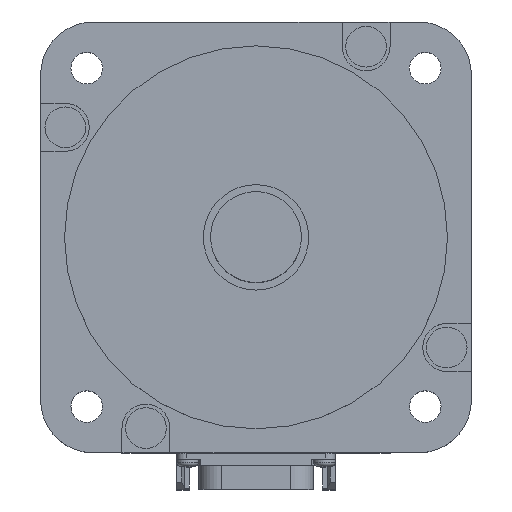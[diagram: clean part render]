
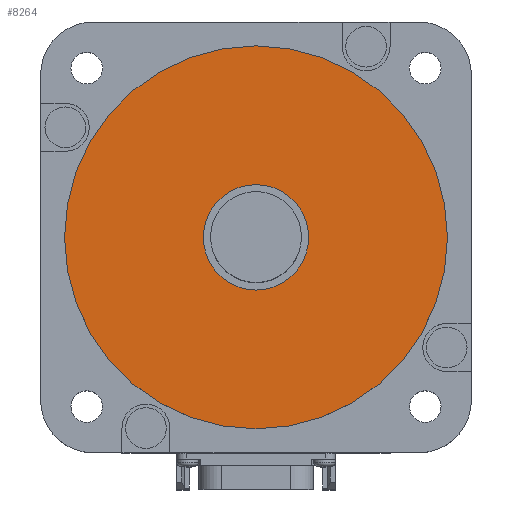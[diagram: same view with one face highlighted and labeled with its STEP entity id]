
A CAD part, top view. The second image highlights one B-rep face of the part: STEP entity #8264.
In plain terms, the highlighted planar face has unit normal (0, 0, 1).
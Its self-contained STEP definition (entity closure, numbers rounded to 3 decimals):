
#1821=CARTESIAN_POINT('',(0.,0.,3.));
#1822=DIRECTION('',(0.,0.,-1.));
#1823=DIRECTION('',(1.,0.,0.));
#1824=AXIS2_PLACEMENT_3D('',#1821,#1822,#1823);
#1826=CARTESIAN_POINT('',(0.,0.,3.));
#1827=DIRECTION('',(0.,0.,-1.));
#1828=DIRECTION('',(-1.,0.,0.));
#1829=AXIS2_PLACEMENT_3D('',#1826,#1827,#1828);
#1831=CARTESIAN_POINT('',(0.,0.,3.));
#1832=DIRECTION('',(0.,0.,1.));
#1833=DIRECTION('',(1.,0.,0.));
#1834=AXIS2_PLACEMENT_3D('',#1831,#1832,#1833);
#1836=CARTESIAN_POINT('',(0.,0.,3.));
#1837=DIRECTION('',(0.,0.,1.));
#1838=DIRECTION('',(-1.,0.,0.));
#1839=AXIS2_PLACEMENT_3D('',#1836,#1837,#1838);
#4632=CARTESIAN_POINT('',(40.,0.,3.));
#4633=VERTEX_POINT('',#4632);
#4634=CARTESIAN_POINT('',(-40.,0.,3.));
#4635=VERTEX_POINT('',#4634);
#5704=CARTESIAN_POINT('',(11.,0.,3.));
#5705=CARTESIAN_POINT('',(-11.,0.,3.));
#5706=VERTEX_POINT('',#5704);
#5707=VERTEX_POINT('',#5705);
#8248=CARTESIAN_POINT('',(0.,0.,3.));
#8249=DIRECTION('',(0.,0.,1.));
#8250=DIRECTION('',(1.,0.,0.));
#8251=AXIS2_PLACEMENT_3D('',#8248,#8249,#8250);
#8252=PLANE('',#8251);
#8253=ORIENTED_EDGE('',*,*,#8238,.T.);
#8255=ORIENTED_EDGE('',*,*,#8254,.T.);
#8256=EDGE_LOOP('',(#8253,#8255));
#8257=FACE_OUTER_BOUND('',#8256,.F.);
#8259=ORIENTED_EDGE('',*,*,#8258,.T.);
#8261=ORIENTED_EDGE('',*,*,#8260,.T.);
#8262=EDGE_LOOP('',(#8259,#8261));
#8263=FACE_BOUND('',#8262,.F.);
#8264=ADVANCED_FACE('',(#8257,#8263),#8252,.T.);
#1825=CIRCLE('',#1824,40.);
#1830=CIRCLE('',#1829,40.);
#1835=CIRCLE('',#1834,11.);
#1840=CIRCLE('',#1839,11.);
#8238=EDGE_CURVE('',#4633,#4635,#1825,.T.);
#8254=EDGE_CURVE('',#4635,#4633,#1830,.T.);
#8258=EDGE_CURVE('',#5706,#5707,#1835,.T.);
#8260=EDGE_CURVE('',#5707,#5706,#1840,.T.);
